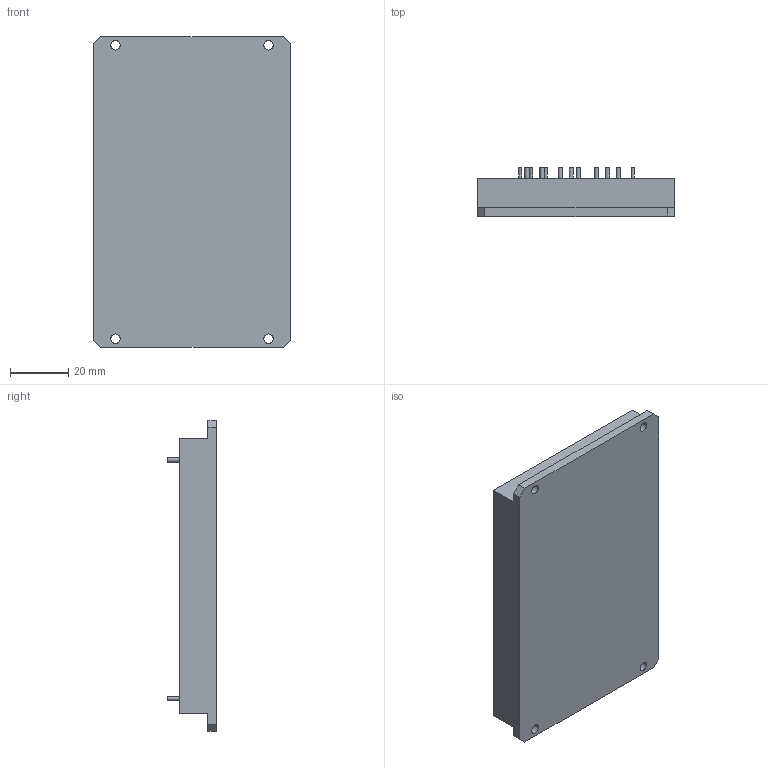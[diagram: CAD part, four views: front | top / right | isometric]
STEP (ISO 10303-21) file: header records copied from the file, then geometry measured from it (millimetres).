
FILE_DESCRIPTION(/* description */ (''),/* implementation_level */ '2;1');
FILE_NAME(/* name */ '',/* time_stamp */ '2021-06-23T20:02:09+02:00',/* author */ (''),/* organization */ (''),/* preprocessor_version */ 'ST-DEVELOPER v18.1',/* originating_system */ '',/* authorisation */ '');
FILE_SCHEMA (('AUTOMOTIVE_DESIGN { 1 0 10303 214 3 1 1 }'));
Length unit declared in the file: millimetre
Products named in the file (1): TESAV-F6_case_pins
Bounding box: 67.7 x 16.85 x 107 mm (x, y, z)
Volume: 78945.4 mm3; surface area: 19409 mm2
Topology: 15 solids, 15 shells, 69 faces, 114 edges, 76 vertices
Faces by surface type: plane 47, cylinder 22
Full cylindrical faces by diameter (mm): 1 x4, 1.5 x10, 3.2 x4
Entity records: 1655 total; most frequent: DIRECTION 298, CARTESIAN_POINT 260, ORIENTED_EDGE 228, EDGE_CURVE 114, AXIS2_PLACEMENT_3D 114, EDGE_LOOP 78, VERTEX_POINT 76, LINE 70
